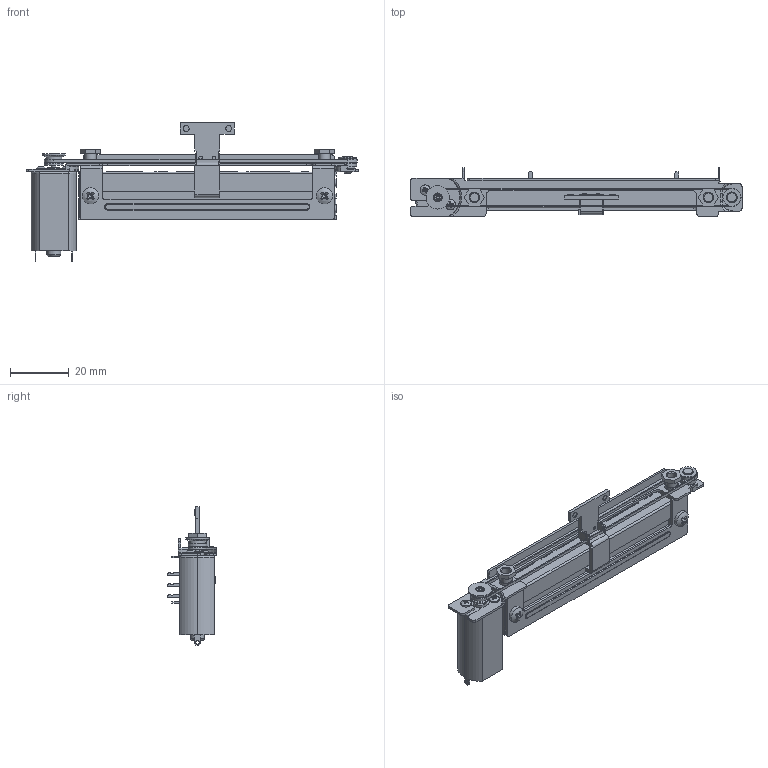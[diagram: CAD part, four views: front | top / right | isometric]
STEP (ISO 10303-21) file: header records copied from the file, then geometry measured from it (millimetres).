
FILE_DESCRIPTION(('FreeCAD Model'),'2;1');
FILE_NAME('Open CASCADE Shape Model','2023-03-16T10:46:12',(''),(''), 'Open CASCADE STEP processor 7.6','FreeCAD','Unknown');
FILE_SCHEMA(('AUTOMOTIVE_DESIGN { 1 0 10303 214 1 1 1 1 }'));
Length unit declared in the file: millimetre
Products named in the file (1): Fusion001033
Bounding box: 113.5 x 16.7 x 47.4 mm (x, y, z)
Volume: 18988.9 mm3; surface area: 12258.7 mm2
Topology: 1 solids, 15 shells, 1082 faces, 2763 edges, 1748 vertices
Faces by surface type: plane 712, cylinder 283, cone 40, torus 40, sphere 4, bspline 3
Full cylindrical faces by diameter (mm): 0.5 x15, 1.2 x6, 1.25 x2, 1.3 x1, 1.5 x6, 1.7 x8, 2 x9, 2.5 x2, 3 x14, 3.2 x2, 3.5 x4, 3.7 x1, 4 x4, 4.5 x2, 4.7 x2, 5 x2, 5.38 x1, 5.6 x2, 6 x2, 6.5 x1, 8 x1
Entity records: 75045 total; most frequent: CARTESIAN_POINT 16858, DIRECTION 9379, ORIENTED_EDGE 5522, PCURVE 5518, DEFINITIONAL_REPRESENTATION 5518, LINE 5162, VECTOR 5162, EDGE_CURVE 2759
